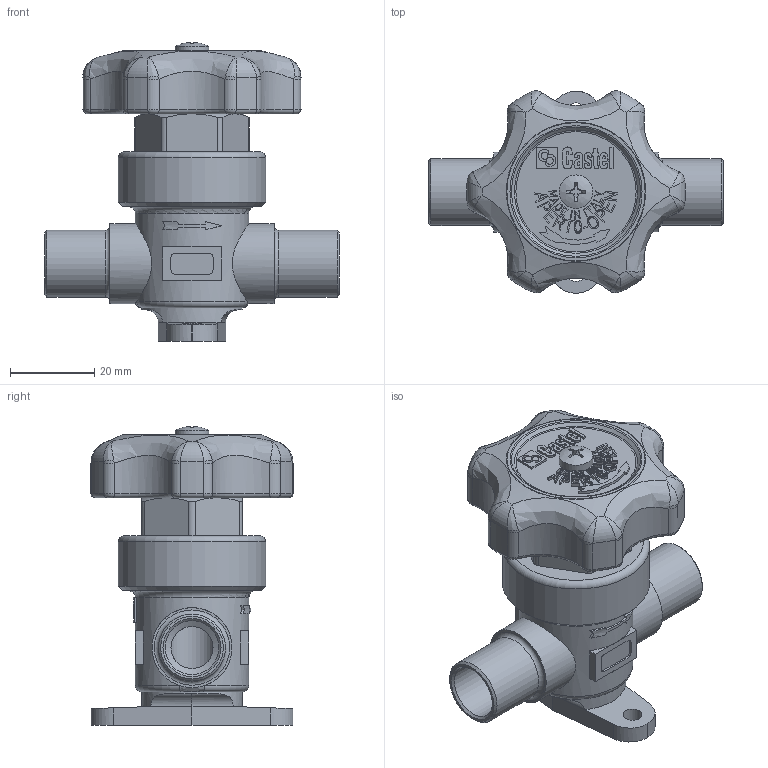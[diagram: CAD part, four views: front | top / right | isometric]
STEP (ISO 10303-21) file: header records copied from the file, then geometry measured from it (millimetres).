
FILE_DESCRIPTION(/* description */ (''),/* implementation_level */ '2;1');
FILE_NAME(/* name */ '6220_4',/* time_stamp */ '2009-11-20T15:06:19+01:00',/* author */ (''),/* organization */ (''),/* preprocessor_version */ 'ST-DEVELOPER v9',/* originating_system */ 'UGS - NX 4.0',/* authorisation */ '');
FILE_SCHEMA (('CONFIG_CONTROL_DESIGN'));
Length unit declared in the file: millimetre
Products named in the file (1): VSalC6C9ecp8
Bounding box: 70 x 48.01 x 71.03 mm (x, y, z)
Volume: 43458 mm3; surface area: 25540.3 mm2
Topology: 1 solids, 3 shells, 1121 faces, 2763 edges, 1680 vertices
Faces by surface type: plane 378, cylinder 229, bspline 163, torus 160, extrusion 118, cone 39, sphere 34
Full cylindrical faces by diameter (mm): 3.4 x1, 4 x1, 4.5 x3, 8 x1, 9.7 x1, 10 x3, 10.55 x1, 11 x1, 12.8 x2, 13 x1, 13.6 x1, 14 x1, 14.5 x1, 15.9 x2, 19 x2, 23.5 x1, 24 x1, 27 x1, 28.2 x1, 28.8 x1, 30 x1, 35 x1
Entity records: 37749 total; most frequent: CARTESIAN_POINT 13968, ORIENTED_EDGE 5246, DIRECTION 4255, EDGE_CURVE 2623, AXIS2_PLACEMENT_3D 1693, VERTEX_POINT 1641, EDGE_LOOP 1259, B_SPLINE_CURVE_WITH_KNOTS 1138
